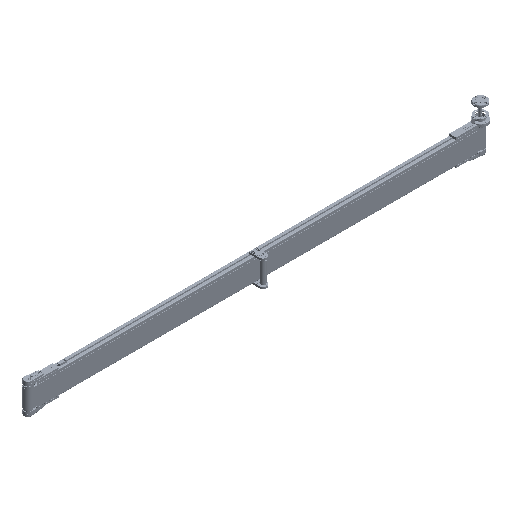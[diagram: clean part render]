
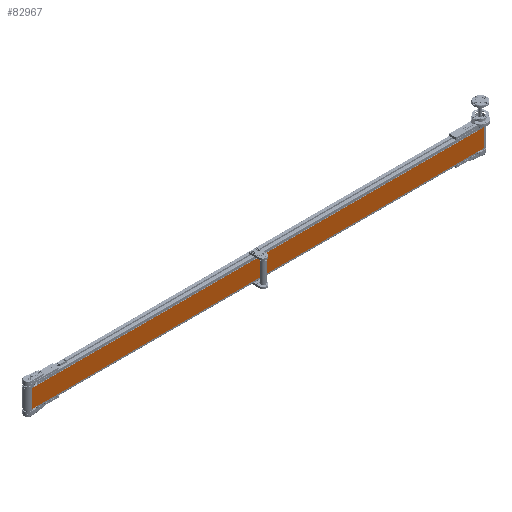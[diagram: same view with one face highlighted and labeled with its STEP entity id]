
A CAD part, isometric view. The second image highlights one B-rep face of the part: STEP entity #82967.
In plain terms, the highlighted planar face has unit normal (0, -1, 0).
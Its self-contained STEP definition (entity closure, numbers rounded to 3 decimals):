
#1163 = EDGE_CURVE ( 'NONE', #45393, #49379, #68417, .T. ) ;
#5536 = LINE ( 'NONE', #97312, #13915 ) ;
#6336 = CARTESIAN_POINT ( 'NONE',  ( -1500., -27., -60. ) ) ;
#6436 = DIRECTION ( 'NONE',  ( 1., 0., 0. ) ) ;
#13915 = VECTOR ( 'NONE', #31831, 1000. ) ;
#17501 = EDGE_CURVE ( 'NONE', #141707, #49379, #163273, .T. ) ;
#19534 = DIRECTION ( 'NONE',  ( 0., 1., 0. ) ) ;
#29271 = CARTESIAN_POINT ( 'NONE',  ( 1500., -27., -60. ) ) ;
#31831 = DIRECTION ( 'NONE',  ( 0., 0., -1. ) ) ;
#32363 = CARTESIAN_POINT ( 'NONE',  ( 1500., -27., 60. ) ) ;
#33137 = VECTOR ( 'NONE', #85924, 1000. ) ;
#45246 = VECTOR ( 'NONE', #6436, 1000. ) ;
#45393 = VERTEX_POINT ( 'NONE', #56636 ) ;
#47562 = FACE_OUTER_BOUND ( 'NONE', #150374, .T. ) ;
#49379 = VERTEX_POINT ( 'NONE', #29271 ) ;
#51705 = VECTOR ( 'NONE', #55643, 1000. ) ;
#55643 = DIRECTION ( 'NONE',  ( 1., 0., 0. ) ) ;
#56073 = EDGE_CURVE ( 'NONE', #145103, #141707, #71018, .T. ) ;
#56319 = ORIENTED_EDGE ( 'NONE', *, *, #17501, .F. ) ;
#56636 = CARTESIAN_POINT ( 'NONE',  ( -1500., -27., -60. ) ) ;
#63247 = AXIS2_PLACEMENT_3D ( 'NONE', #98612, #19534, #122437 ) ;
#68417 = LINE ( 'NONE', #6336, #51705 ) ;
#68645 = EDGE_CURVE ( 'NONE', #145103, #45393, #5536, .T. ) ;
#71018 = LINE ( 'NONE', #122894, #45246 ) ;
#82967 = ADVANCED_FACE ( 'NONE', ( #47562 ), #110533, .F. ) ;
#85924 = DIRECTION ( 'NONE',  ( 0., 0., -1. ) ) ;
#97312 = CARTESIAN_POINT ( 'NONE',  ( -1500., -27., 60. ) ) ;
#98612 = CARTESIAN_POINT ( 'NONE',  ( -1500., -27., 60. ) ) ;
#109643 = ORIENTED_EDGE ( 'NONE', *, *, #56073, .F. ) ;
#110533 = PLANE ( 'NONE',  #63247 ) ;
#114799 = ORIENTED_EDGE ( 'NONE', *, *, #1163, .T. ) ;
#122437 = DIRECTION ( 'NONE',  ( 0., 0., 1. ) ) ;
#122894 = CARTESIAN_POINT ( 'NONE',  ( -1500., -27., 60. ) ) ;
#141707 = VERTEX_POINT ( 'NONE', #161797 ) ;
#145103 = VERTEX_POINT ( 'NONE', #155609 ) ;
#150374 = EDGE_LOOP ( 'NONE', ( #114799, #56319, #109643, #164672 ) ) ;
#155609 = CARTESIAN_POINT ( 'NONE',  ( -1500., -27., 60. ) ) ;
#161797 = CARTESIAN_POINT ( 'NONE',  ( 1500., -27., 60. ) ) ;
#163273 = LINE ( 'NONE', #32363, #33137 ) ;
#164672 = ORIENTED_EDGE ( 'NONE', *, *, #68645, .T. ) ;
